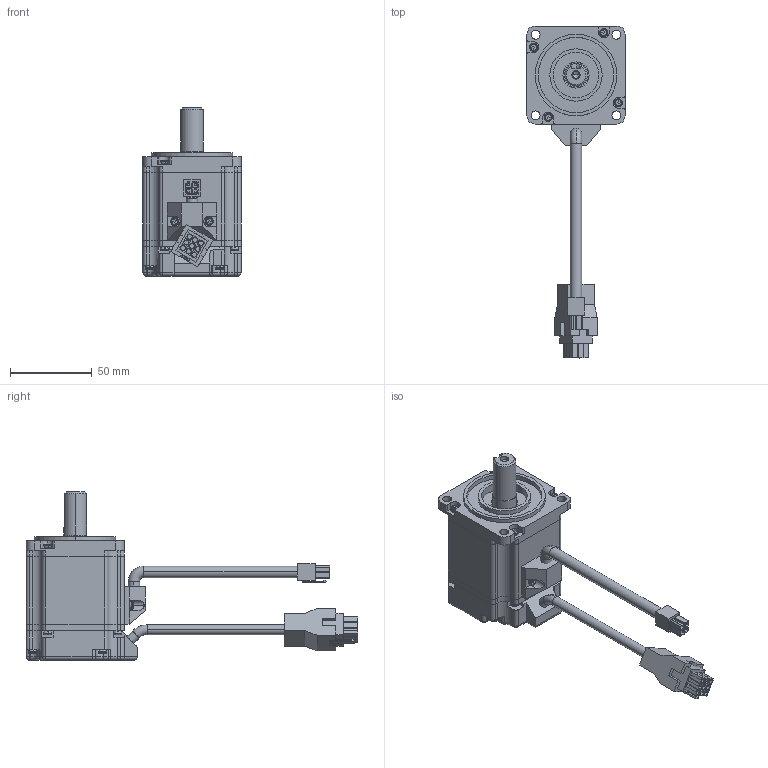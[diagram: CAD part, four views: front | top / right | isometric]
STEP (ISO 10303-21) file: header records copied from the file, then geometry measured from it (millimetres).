
FILE_DESCRIPTION (( 'STEP AP203' ), '1' );
FILE_NAME ('60S5S-A2012065.STEP', '2020-08-10T01:41:58', ( 'Windows' ), ( 'Microsoft' ), 'SwSTEP 2.0', 'SolidWorks 2015', '' );
FILE_SCHEMA (( 'CONFIG_CONTROL_DESIGN' ));
Length unit declared in the file: millimetre
Products named in the file (12): HX42000-9R; 隅赽; 晤鎢ん盄; 綴傷裔; 萇儂盄; 綴欶; 60S5S-A2012065; ヶ傷裔; 粣; M3X46蹟隊; 等揤盄裔; HX42000-4R
Assembly tree (24 placements, depth 2):
  60S5S-A2012065
    隅赽
    綴傷裔
    綴欶
    ヶ傷裔
    粣
    M3X46蹟隊  x14
    等揤盄裔
    HX42000-4R
    HX42000-9R
    晤鎢ん盄
    萇儂盄
Bounding box: 60 x 203.12 x 103 mm (x, y, z)
Volume: 279467.4 mm3; surface area: 70625.4 mm2
Topology: 24 solids, 33 shells, 1008 faces, 2490 edges, 1596 vertices
Faces by surface type: plane 588, cylinder 332, bspline 56, torus 13, sphere 12, cone 7
Entity records: 22469 total; most frequent: CARTESIAN_POINT 3716, DIRECTION 3619, ORIENTED_EDGE 3474, EDGE_CURVE 1737, LINE 1265, VECTOR 1265, AXIS2_PLACEMENT_3D 1177, VERTEX_POINT 1128
